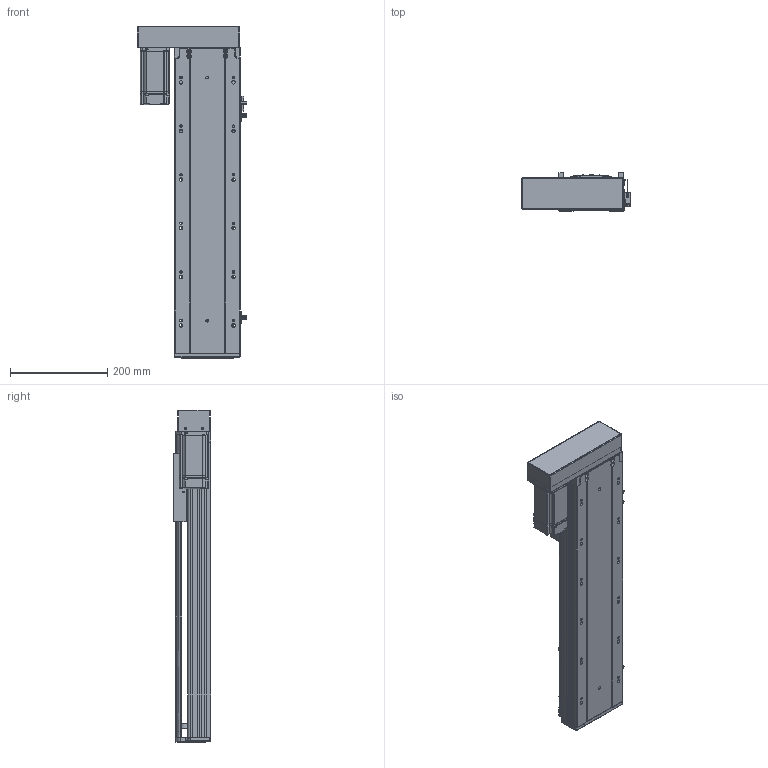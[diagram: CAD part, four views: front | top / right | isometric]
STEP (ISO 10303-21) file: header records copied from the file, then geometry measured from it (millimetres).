
FILE_DESCRIPTION (( 'STEP AP203' ), '1' );
FILE_NAME ('RY140-L1620-300-LK.SLDASM_400.step', '2021-02-22T02:46:19', ( '盈信电脑' ), ( '东莞市道滘镇水果街19号' ), 'SwSTEP 2.0', 'SolidWorks 2012', '' );
FILE_SCHEMA (( 'CONFIG_CONTROL_DESIGN' ));
Length unit declared in the file: millimetre
Products named in the file (14): RY140-L1620-300-LK.SLDASM_400; RY140蛌殏萇儂假蚾啣; RY140酘衵殏萇儂欶; 侂狟400W侜督萇儂; 15; 覜茼ん672; RY120外置感应片(140共用）; 滅袉蝶18-10; RY140转折电机端支撑座; RY140臏賑輸; RY140綴裔啣; 滅袉蝶18-24; RY140-300蛌殏倰第奻裔啣-LK_400; RY140-300蛌殏倰第菁釱-LK_400
Assembly tree (16 placements, depth 3):
  RY140-L1620-300-LK.SLDASM_400
    RY140-300蛌殏倰第菁釱-LK_400
    RY140臏賑輸
    RY140-300蛌殏倰第奻裔啣-LK_400
    RY140綴裔啣
    滅袉蝶18-24  x2
    滅袉蝶18-10
    覜茼ん672  x3
    RY120外置感应片(140共用）
    RY140转折电机端支撑座
    RY140蛌殏萇儂假蚾啣
    侂狟400W侜督萇儂
      15
    RY140酘衵殏萇儂欶
Bounding box: 225.2 x 78 x 683 mm (x, y, z)
Volume: 2566861.1 mm3; surface area: 906812.6 mm2
Topology: 15 solids, 15 shells, 2239 faces, 6180 edges, 3970 vertices
Faces by surface type: plane 1174, cylinder 798, cone 174, bspline 93
Entity records: 70923 total; most frequent: CARTESIAN_POINT 17249, ORIENTED_EDGE 11104, DIRECTION 10481, EDGE_CURVE 5552, VERTEX_POINT 3638, LINE 3593, VECTOR 3593, AXIS2_PLACEMENT_3D 3444
